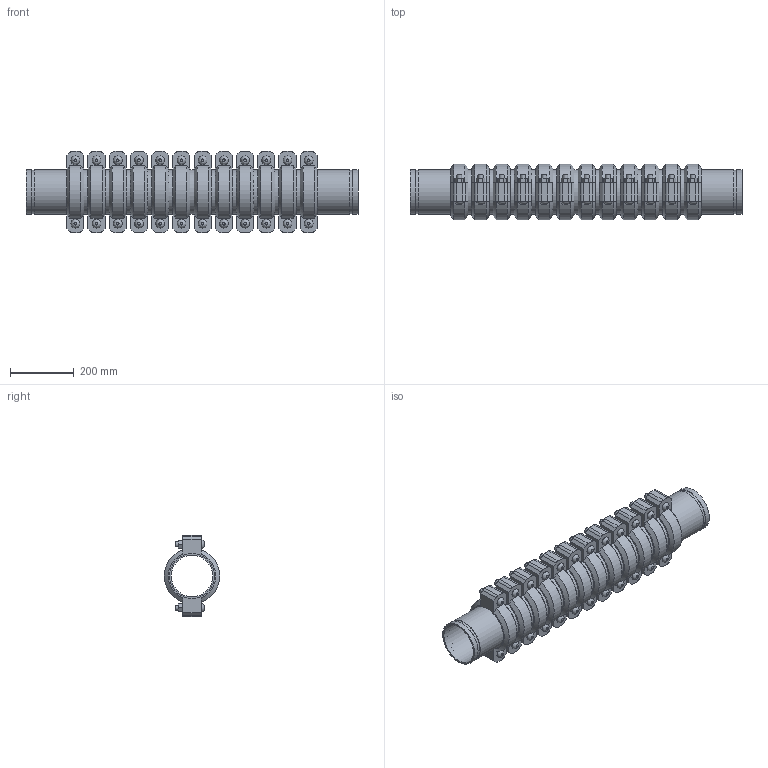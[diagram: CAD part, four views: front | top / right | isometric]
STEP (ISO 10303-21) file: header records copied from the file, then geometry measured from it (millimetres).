
FILE_DESCRIPTION(/* description */ ('VIC EXPANSION JOINT 12 COUPLINGS EXPANDED STYLE 155 (OGS)','CAx-IF Rec.Pracs.---Representation and Presentation of Product Manufacturing Information (PMI)---4.0---2014-10-13'),/* implementation_level */ '2;1');
FILE_NAME(/* name */ 'C:\Users\kkamble\AppData\Roaming\Autodesk\ApplicationPlugins\Victaulic.Temp\A519\Victaulic_IPS_Expansion Joint_Expanded_12 Couplings_Style 155 (OGS)_5 (125).stp',/* time_stamp */ '2021-06-26T23:54:34+02:00',/* author */ ('kkamble'),/* organization */ ('Victaulic'),/* preprocessor_version */ 'ST-DEVELOPER v17.2',/* originating_system */ 'Autodesk Inventor 2019',/* authorisation */ '');
FILE_SCHEMA (('AP242_MANAGED_MODEL_BASED_3D_ENGINEERING_MIM_LF { 1 0 10303 442 1 1 4 }'));
Length unit declared in the file: inch
Products named in the file (4): 155-05.0; Nipple-05.0; Nipple-05.0_1; 075-05.0
Assembly tree (25 placements, depth 2):
  155-05.0
    Nipple-05.0  x2
    Nipple-05.0_1  x11
    075-05.0  x12
Bounding box: 1045.21 x 174.16 x 255.78 mm (x, y, z)
Volume: 10069561.3 mm3; surface area: 2179631.2 mm2
Topology: 25 solids, 49 shells, 840 faces, 1986 edges, 1392 vertices
Faces by surface type: plane 510, cylinder 258, cone 48, bspline 24
Full cylindrical faces by diameter (mm): 15.875 x48, 17.424 x24, 130.988 x13, 134.95 x12, 137.033 x26, 141.3 x63
Entity records: 2913 total; most frequent: CARTESIAN_POINT 509, DIRECTION 493, ORIENTED_EDGE 386, AXIS2_PLACEMENT_3D 200, EDGE_CURVE 193, VERTEX_POINT 138, EDGE_LOOP 107, LINE 93
